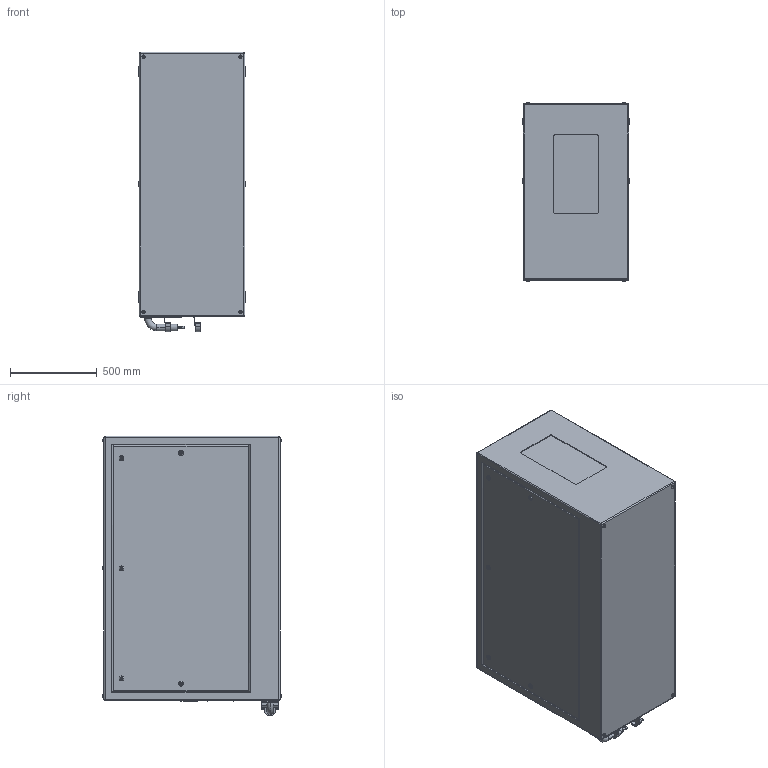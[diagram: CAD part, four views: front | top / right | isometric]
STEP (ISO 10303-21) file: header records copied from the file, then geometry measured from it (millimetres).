
FILE_DESCRIPTION (( 'STEP AP214' ), '1' );
FILE_NAME ('Oasis 59.314.P R02.STEP', '2022-09-12T23:42:58', ( '' ), ( '' ), 'SwSTEP 2.0', 'SolidWorks 2020', '' );
FILE_SCHEMA (( 'AUTOMOTIVE_DESIGN' ));
Length unit declared in the file: inch
Products named in the file (1): Oasis 59.314.P R02
Bounding box: 622.3 x 1033.27 x 1612.9 mm (x, y, z)
Volume: 942947915.2 mm3; surface area: 6819556 mm2
Topology: 3 solids, 9 shells, 570 faces, 1303 edges, 828 vertices
Faces by surface type: plane 315, cylinder 193, torus 54, bspline 8
Entity records: 21911 total; most frequent: CARTESIAN_POINT 3214, DIRECTION 2847, ORIENTED_EDGE 2590, EDGE_CURVE 1295, AXIS2_PLACEMENT_3D 1021, VERTEX_POINT 828, VECTOR 805, LINE 805
